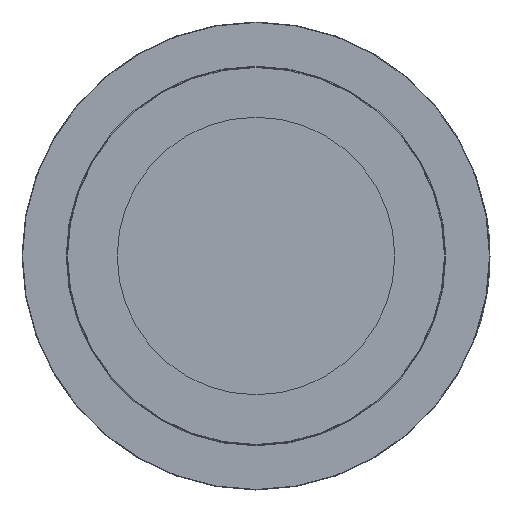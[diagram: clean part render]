
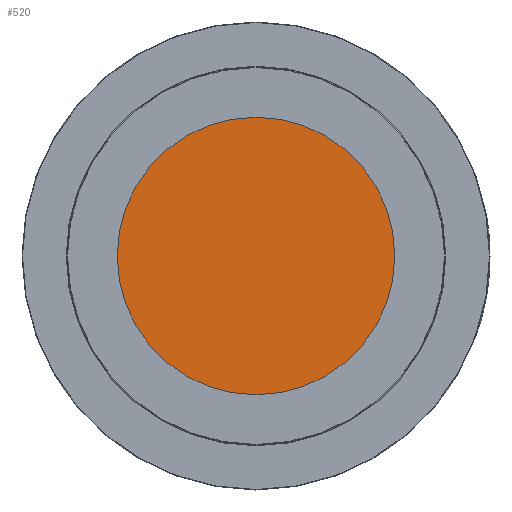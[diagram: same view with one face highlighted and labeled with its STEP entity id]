
A CAD part, left-side view. The second image highlights one B-rep face of the part: STEP entity #520.
In plain terms, the highlighted planar face has unit normal (-1, 0, 0).
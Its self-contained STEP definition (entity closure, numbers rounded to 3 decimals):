
#520 = ADVANCED_FACE( '', ( #1151 ), #1152, .T. );
#1151 = FACE_OUTER_BOUND( '', #3940, .T. );
#1152 = PLANE( '', #3941 );
#3940 = EDGE_LOOP( '', ( #6273 ) );
#3941 = AXIS2_PLACEMENT_3D( '', #6274, #6275, #6276 );
#6273 = ORIENTED_EDGE( '', *, *, #7629, .T. );
#6274 = CARTESIAN_POINT( '', ( -0.689, 0., 0. ) );
#6275 = DIRECTION( '', ( -1., 0., 0. ) );
#6276 = DIRECTION( '', ( 0., 0., 1. ) );
#7629 = EDGE_CURVE( '', #8717, #8717, #8718, .T. );
#8717 = VERTEX_POINT( '', #11667 );
#8718 = CIRCLE( '', #11668, 139.319 );
#11667 = CARTESIAN_POINT( '', ( -0.689, 0., 139.319 ) );
#11668 = AXIS2_PLACEMENT_3D( '', #13079, #13080, #13081 );
#13079 = CARTESIAN_POINT( '', ( -0.689, 0., 0. ) );
#13080 = DIRECTION( '', ( -1., 0., 0. ) );
#13081 = DIRECTION( '', ( 0., 0., 1. ) );
